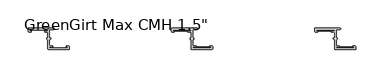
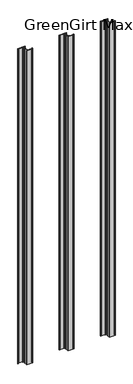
"""IFC4 building model written with IfcOpenShell, lengths in millimetres: fastener geometry."""

from ifc_helpers import new_model, si_unit, frame, origin, origin_with_axes, place, context, project, spatial, polyline, circle_curve, outline, extrude, source, transform, mapped, element, save
from ifc_brep_helpers import plane_surface, cylinder_surface, revolved_surface, advanced_brep


def fastener_bb8683ab(model_context):
    return source(origin(), model_context, "Body", "SolidModel", [
        advanced_brep(
        [(2340.102, -3.556, 2032.0), (2371.09, -3.556, 2032.0), (2371.09, -5.2832, 2032.0), (2366.899, -5.2832, 2032.0), (2366.899, -7.3152, 2032.0), (2371.09, -7.3152, 2032.0), (2371.852, -8.0772, 2032.0), (2371.852, -17.7601563, 2032.0), (2371.0035567, -17.7601563, 2032.0), (2371.0035567, -20.4288947, 2032.0), (2371.852, -20.4288947, 2032.0), (2371.852, -37.3379766, 2032.0), (2372.614, -38.0999766, 2032.0), (2408.8513242, -38.1, 2032.0), (2409.571, -37.3379766, 2032.0), (2409.571, -33.7057766, 2032.0), (2407.539, -31.6737766, 2032.0), (2405.253, -31.6737766, 2032.0), (2405.253, -33.7057766, 2032.0), (2406.269, -33.7057766, 2032.0), (2406.269, -35.4329766, 2032.0), (2375.281, -35.4329766, 2032.0), (2375.281, -33.7057766, 2032.0), (2379.472, -33.7057766, 2032.0), (2379.472, -31.6737766, 2032.0), (2375.281, -31.6737766, 2032.0), (2374.519, -30.9117766, 2032.0), (2374.519, -20.4279799, 2032.0), (2375.3679007, -20.4279799, 2032.0), (2375.3679007, -17.7601563, 2032.0), (2374.519, -17.7601563, 2032.0), (2374.519, -3.429, 2032.0), (2375.281, -2.667, 2032.0), (2381.377, -2.667, 2032.0), (2381.377, 0.0, 2032.0), (2337.562, 0.0, 2032.0), (2336.8, -0.762, 2032.0), (2336.8, -5.2832, 2032.0), (2338.832, -7.3152, 2032.0), (2341.118, -7.3152, 2032.0), (2341.118, -5.2832, 2032.0), (2340.102, -5.2832, 2032.0), (2340.102, -3.556, 0.0), (2340.102, -5.2832, 0.0), (2341.118, -5.2832, 0.0), (2341.118, -7.3152, 0.0), (2338.832, -7.3152, 0.0), (2336.8, -5.2832, 0.0), (2336.8, -0.762, 0.0), (2337.562, 0.0, 0.0), (2381.377, 0.0, 0.0), (2381.377, -2.667, 0.0), (2375.281, -2.667, 0.0), (2374.519, -3.429, 0.0), (2374.519, -17.7601563, 0.0), (2375.3679007, -17.7601563, 0.0), (2375.3679007, -20.4279799, 0.0), (2374.519, -20.4279799, 0.0), (2374.519, -30.9117766, 0.0), (2375.281, -31.6737766, 0.0), (2379.472, -31.6737766, 0.0), (2379.472, -33.7057766, 0.0), (2375.281, -33.7057766, 0.0), (2375.281, -35.4329766, 0.0), (2406.269, -35.4329766, 0.0), (2406.269, -33.7057766, 0.0), (2405.253, -33.7057766, 0.0), (2405.253, -31.6737766, 0.0), (2407.539, -31.6737766, 0.0), (2409.571, -33.7057766, 0.0), (2409.571, -37.3379766, 0.0), (2408.809, -38.0999766, 0.0), (2372.7467826, -38.1, 0.0), (2371.852, -37.3379766, 0.0), (2371.852, -20.4288947, 0.0), (2371.0035567, -20.4288947, 0.0), (2371.0035567, -17.7601563, 0.0), (2371.852, -17.7601563, 0.0), (2371.852, -8.0772, 0.0), (2371.09, -7.3152, 0.0), (2366.899, -7.3152, 0.0), (2366.899, -5.2832, 0.0), (2371.09, -5.2832, 0.0), (2371.09, -3.556, 0.0)],
        [
            (0, 1),
            (1, 2, circle_curve(frame((2371.09, -4.4196, 2032.0), z_axis=(0.0, 0.0, -1.0), x_axis=(1.0, 0.0, 0.0)), 0.8636)),
            (2, 3),
            (3, 4, circle_curve(frame((2366.899, -6.2992, 2032.0), z_axis=(0.0, 0.0, 1.0), x_axis=(1.0, 0.0, 0.0)), 1.016)),
            (4, 5),
            (5, 6, circle_curve(frame((2371.09, -8.0772, 2032.0), z_axis=(0.0, 0.0, -1.0), x_axis=(1.0, 0.0, 0.0)), 0.762)),
            (6, 7),
            (7, 8),
            (8, 9, circle_curve(frame((2371.0035567, -19.0945255, 2032.0), z_axis=(0.0, 0.0, 1.0), x_axis=(1.0, 0.0, 0.0)), 1.3343692)),
            (9, 10),
            (10, 11),
            (11, 12, circle_curve(frame((2372.614, -37.3379766, 2032.0), z_axis=(0.0, 0.0, 1.0), x_axis=(1.0, 0.0, 0.0)), 0.762)),
            (12, 13),
            (13, 14, circle_curve(frame((2408.809, -37.3379766, 2032.0), z_axis=(0.0, 0.0, 1.0), x_axis=(1.0, 0.0, 0.0)), 0.762)),
            (14, 15),
            (15, 16, circle_curve(frame((2407.539, -33.7057766, 2032.0), z_axis=(0.0, 0.0, 1.0), x_axis=(1.0, 0.0, 0.0)), 2.032)),
            (16, 17),
            (17, 18, circle_curve(frame((2405.253, -32.6897766, 2032.0), z_axis=(0.0, 0.0, 1.0), x_axis=(1.0, 0.0, 0.0)), 1.016)),
            (18, 19),
            (19, 20, circle_curve(frame((2406.269, -34.5693766, 2032.0), z_axis=(0.0, 0.0, -1.0), x_axis=(1.0, 0.0, 0.0)), 0.8636)),
            (20, 21),
            (21, 22, circle_curve(frame((2375.281, -34.5693766, 2032.0), z_axis=(0.0, 0.0, -1.0), x_axis=(1.0, 0.0, 0.0)), 0.8636)),
            (22, 23),
            (23, 24, circle_curve(frame((2379.472, -32.6897766, 2032.0), z_axis=(0.0, 0.0, 1.0), x_axis=(1.0, 0.0, 0.0)), 1.016)),
            (24, 25),
            (25, 26, circle_curve(frame((2375.281, -30.9117766, 2032.0), z_axis=(0.0, 0.0, -1.0), x_axis=(1.0, 0.0, 0.0)), 0.762)),
            (26, 27),
            (27, 28),
            (28, 29, circle_curve(frame((2375.3679007, -19.0940681, 2032.0), z_axis=(0.0, 0.0, 1.0), x_axis=(1.0, 0.0, 0.0)), 1.3339118)),
            (29, 30),
            (30, 31),
            (31, 32, circle_curve(frame((2375.281, -3.429, 2032.0), z_axis=(0.0, 0.0, -1.0), x_axis=(1.0, 0.0, 0.0)), 0.762)),
            (32, 33),
            (33, 34, circle_curve(frame((2381.377, -1.3335, 2032.0), z_axis=(0.0, 0.0, 1.0), x_axis=(1.0, 0.0, 0.0)), 1.3335)),
            (34, 35),
            (35, 36, circle_curve(frame((2337.562, -0.762, 2032.0), z_axis=(0.0, 0.0, 1.0), x_axis=(1.0, 0.0, 0.0)), 0.762)),
            (36, 37),
            (37, 38, circle_curve(frame((2338.832, -5.2832, 2032.0), z_axis=(0.0, 0.0, 1.0), x_axis=(1.0, 0.0, 0.0)), 2.032)),
            (38, 39),
            (39, 40, circle_curve(frame((2341.118, -6.2992, 2032.0), z_axis=(0.0, 0.0, 1.0), x_axis=(1.0, 0.0, 0.0)), 1.016)),
            (40, 41),
            (41, 0, circle_curve(frame((2340.102, -4.4196, 2032.0), z_axis=(0.0, 0.0, -1.0), x_axis=(1.0, 0.0, 0.0)), 0.8636)),
            (42, 43, circle_curve(frame((2340.102, -4.4196, 0.0), z_axis=(0.0, 0.0, 1.0), x_axis=(1.0, 0.0, 0.0)), 0.8636)),
            (43, 44),
            (44, 45, circle_curve(frame((2341.118, -6.2992, 0.0), z_axis=(0.0, 0.0, -1.0), x_axis=(1.0, 0.0, 0.0)), 1.016)),
            (45, 46),
            (46, 47, circle_curve(frame((2338.832, -5.2832, 0.0), z_axis=(0.0, 0.0, -1.0), x_axis=(1.0, 0.0, 0.0)), 2.032)),
            (47, 48),
            (48, 49, circle_curve(frame((2337.562, -0.762, 0.0), z_axis=(0.0, 0.0, -1.0), x_axis=(1.0, 0.0, 0.0)), 0.762)),
            (49, 50),
            (50, 51, circle_curve(frame((2381.377, -1.3335, 0.0), z_axis=(0.0, 0.0, -1.0), x_axis=(1.0, 0.0, 0.0)), 1.3335)),
            (51, 52),
            (52, 53, circle_curve(frame((2375.281, -3.429, 0.0), z_axis=(0.0, 0.0, 1.0), x_axis=(1.0, 0.0, 0.0)), 0.762)),
            (53, 54),
            (54, 55),
            (55, 56, circle_curve(frame((2375.3679007, -19.0940681, 0.0), z_axis=(0.0, 0.0, -1.0), x_axis=(1.0, 0.0, 0.0)), 1.3339118)),
            (56, 57),
            (57, 58),
            (58, 59, circle_curve(frame((2375.281, -30.9117766, 0.0), z_axis=(0.0, 0.0, 1.0), x_axis=(1.0, 0.0, 0.0)), 0.762)),
            (59, 60),
            (60, 61, circle_curve(frame((2379.472, -32.6897766, 0.0), z_axis=(0.0, 0.0, -1.0), x_axis=(1.0, 0.0, 0.0)), 1.016)),
            (61, 62),
            (62, 63, circle_curve(frame((2375.281, -34.5693766, 0.0), z_axis=(0.0, 0.0, 1.0), x_axis=(1.0, 0.0, 0.0)), 0.8636)),
            (63, 64),
            (64, 65, circle_curve(frame((2406.269, -34.5693766, 0.0), z_axis=(0.0, 0.0, 1.0), x_axis=(1.0, 0.0, 0.0)), 0.8636)),
            (65, 66),
            (66, 67, circle_curve(frame((2405.253, -32.6897766, 0.0), z_axis=(0.0, 0.0, -1.0), x_axis=(1.0, 0.0, 0.0)), 1.016)),
            (67, 68),
            (68, 69, circle_curve(frame((2407.539, -33.7057766, 0.0), z_axis=(0.0, 0.0, -1.0), x_axis=(1.0, 0.0, 0.0)), 2.032)),
            (69, 70),
            (70, 71, circle_curve(frame((2408.809, -37.3379766, 0.0), z_axis=(0.0, 0.0, -1.0), x_axis=(1.0, 0.0, 0.0)), 0.762)),
            (71, 72),
            (72, 73, circle_curve(frame((2372.614, -37.3379766, 0.0), z_axis=(0.0, 0.0, -1.0), x_axis=(1.0, 0.0, 0.0)), 0.762)),
            (73, 74),
            (74, 75),
            (75, 76, circle_curve(frame((2371.0035567, -19.0945255, 0.0), z_axis=(0.0, 0.0, -1.0), x_axis=(1.0, 0.0, 0.0)), 1.3343692)),
            (76, 77),
            (77, 78),
            (78, 79, circle_curve(frame((2371.09, -8.0772, 0.0), z_axis=(0.0, 0.0, 1.0), x_axis=(1.0, 0.0, 0.0)), 0.762)),
            (79, 80),
            (80, 81, circle_curve(frame((2366.899, -6.2992, 0.0), z_axis=(0.0, 0.0, -1.0), x_axis=(1.0, 0.0, 0.0)), 1.016)),
            (81, 82),
            (82, 83, circle_curve(frame((2371.09, -4.4196, 0.0), z_axis=(0.0, 0.0, 1.0), x_axis=(1.0, 0.0, 0.0)), 0.8636)),
            (83, 42),
            (0, 42),
            (83, 1),
            (82, 2),
            (81, 3),
            (80, 4),
            (79, 5),
            (78, 6),
            (77, 7),
            (76, 8),
            (75, 9),
            (74, 10),
            (73, 11),
            (72, 12),
            (71, 13),
            (70, 14),
            (69, 15),
            (68, 16),
            (67, 17),
            (66, 18),
            (65, 19),
            (64, 20),
            (63, 21),
            (62, 22),
            (61, 23),
            (60, 24),
            (59, 25),
            (58, 26),
            (57, 27),
            (56, 28),
            (55, 29),
            (54, 30),
            (53, 31),
            (52, 32),
            (51, 33),
            (50, 34),
            (49, 35),
            (48, 36),
            (47, 37),
            (46, 38),
            (45, 39),
            (44, 40),
            (43, 41),
        ],
        [
            plane_surface(frame((2371.09, -3.556, 2032.0), z_axis=(0.0, 0.0, 1.0), x_axis=(1.0, 0.0, 0.0))),
            plane_surface(frame((2371.09, -3.556, 0.0), z_axis=(0.0, 0.0, -1.0), x_axis=(-1.0, 0.0, 0.0))),
            plane_surface(frame((2340.102, -3.556, 2032.0), z_axis=(0.0, -1.0, 0.0), x_axis=(0.0, 0.0, -1.0))),
            revolved_surface(polyline([(2371.9536000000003, -4.4196, 0.0), (2371.9536000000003, -4.4196, 2032.0)]), (2371.09, -4.4196, 0.0), (0.0, 0.0, -1.0)),
            plane_surface(frame((2371.09, -5.2832, 2032.0), z_axis=(0.0, 1.0, 0.0), x_axis=(0.0, 0.0, -1.0))),
            cylinder_surface(frame((2366.899, -6.2992, 0.0), z_axis=(0.0, 0.0, 1.0), x_axis=(1.0, 0.0, 0.0)), 1.016),
            plane_surface(frame((2366.899, -7.3152, 2032.0), z_axis=(0.0, -1.0, 0.0), x_axis=(0.0, 0.0, -1.0))),
            revolved_surface(polyline([(2371.8520000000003, -8.0772, 0.0), (2371.8520000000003, -8.0772, 2032.0)]), (2371.09, -8.0772, 0.0), (0.0, 0.0, -1.0)),
            plane_surface(frame((2371.852, -8.0772, 2032.0), z_axis=(-1.0, 0.0, 0.0), x_axis=(0.0, 0.0, -1.0))),
            plane_surface(frame((2371.852, -17.7601563, 2032.0), z_axis=(0.0, 1.0, 0.0), x_axis=(0.0, 0.0, -1.0))),
            cylinder_surface(frame((2371.0035567, -19.0945255, 0.0), z_axis=(0.0, 0.0, 1.0), x_axis=(1.0, 0.0, 0.0)), 1.3343692),
            plane_surface(frame((2371.0035567, -20.4288947, 2032.0), z_axis=(0.0, -1.0, 0.0), x_axis=(0.0, 0.0, -1.0))),
            plane_surface(frame((2371.852, -20.4288947, 2032.0), z_axis=(-1.0, 0.0, 0.0), x_axis=(0.0, 0.0, -1.0))),
            cylinder_surface(frame((2372.614, -37.3379766, 0.0), z_axis=(0.0, 0.0, 1.0), x_axis=(1.0, 0.0, 0.0)), 0.762),
            plane_surface(frame((2372.7467826, -38.1, 2032.0), z_axis=(0.0, -1.0, 0.0), x_axis=(0.0, 0.0, -1.0))),
            cylinder_surface(frame((2408.809, -37.3379766, 0.0), z_axis=(0.0, 0.0, 1.0), x_axis=(1.0, 0.0, 0.0)), 0.762),
            plane_surface(frame((2409.571, -37.3379766, 2032.0), z_axis=(1.0, 1.094695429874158e-12, 0.0), x_axis=(0.0, 0.0, -1.0))),
            cylinder_surface(frame((2407.539, -33.7057766, 0.0), z_axis=(0.0, 0.0, 1.0), x_axis=(1.0, 0.0, 0.0)), 2.032),
            plane_surface(frame((2407.539, -31.6737766, 2032.0), z_axis=(0.0, 1.0, 0.0), x_axis=(0.0, 0.0, -1.0))),
            cylinder_surface(frame((2405.253, -32.6897766, 0.0), z_axis=(0.0, 0.0, 1.0), x_axis=(1.0, 0.0, 0.0)), 1.016),
            plane_surface(frame((2405.253, -33.7057766, 2032.0), z_axis=(0.0, -1.0, 0.0), x_axis=(0.0, 0.0, -1.0))),
            revolved_surface(polyline([(2407.1326, -34.5693766, 0.0), (2407.1326, -34.5693766, 2032.0)]), (2406.269, -34.5693766, 0.0), (0.0, 0.0, -1.0)),
            plane_surface(frame((2406.269, -35.4329766, 2032.0), z_axis=(0.0, 1.0, 0.0), x_axis=(0.0, 0.0, -1.0))),
            revolved_surface(polyline([(2376.1446, -34.5693766, 0.0), (2376.1446, -34.5693766, 2032.0)]), (2375.281, -34.5693766, 0.0), (0.0, 0.0, -1.0)),
            plane_surface(frame((2375.281, -33.7057766, 2032.0), z_axis=(0.0, -1.0, 0.0), x_axis=(0.0, 0.0, -1.0))),
            cylinder_surface(frame((2379.472, -32.6897766, 0.0), z_axis=(0.0, 0.0, 1.0), x_axis=(1.0, 0.0, 0.0)), 1.016),
            plane_surface(frame((2379.472, -31.6737766, 2032.0), z_axis=(0.0, 1.0, 0.0), x_axis=(0.0, 0.0, -1.0))),
            revolved_surface(polyline([(2376.043, -30.9117766, 0.0), (2376.043, -30.9117766, 2032.0)]), (2375.281, -30.9117766, 0.0), (0.0, 0.0, -1.0)),
            plane_surface(frame((2374.519, -30.9117766, 2032.0), z_axis=(1.0, 0.0, 0.0), x_axis=(0.0, 0.0, -1.0))),
            plane_surface(frame((2374.519, -20.4279799, 2032.0), z_axis=(0.0, -1.0, 0.0), x_axis=(0.0, 0.0, -1.0))),
            cylinder_surface(frame((2375.3679007, -19.0940681, 0.0), z_axis=(0.0, 0.0, 1.0), x_axis=(1.0, 0.0, 0.0)), 1.3339118),
            plane_surface(frame((2375.3679007, -17.7601563, 2032.0), z_axis=(0.0, 1.0, 0.0), x_axis=(0.0, 0.0, -1.0))),
            plane_surface(frame((2374.519, -17.7601563, 2032.0), z_axis=(1.0, 0.0, 0.0), x_axis=(0.0, 0.0, -1.0))),
            revolved_surface(polyline([(2376.043, -3.429, 0.0), (2376.043, -3.429, 2032.0)]), (2375.281, -3.429, 0.0), (0.0, 0.0, -1.0)),
            plane_surface(frame((2375.281, -2.667, 2032.0), z_axis=(0.0, -1.0, 0.0), x_axis=(0.0, 0.0, -1.0))),
            cylinder_surface(frame((2381.377, -1.3335, 0.0), z_axis=(0.0, 0.0, 1.0), x_axis=(1.0, 0.0, 0.0)), 1.3335),
            plane_surface(frame((2381.377, 0.0, 2032.0), z_axis=(0.0, 1.0, 0.0), x_axis=(0.0, 0.0, -1.0))),
            cylinder_surface(frame((2337.562, -0.762, 0.0), z_axis=(0.0, 0.0, 1.0), x_axis=(1.0, 0.0, 0.0)), 0.762),
            plane_surface(frame((2336.8, -0.762, 2032.0), z_axis=(-1.0, 1.1909948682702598e-12, 0.0), x_axis=(0.0, 0.0, -1.0))),
            cylinder_surface(frame((2338.832, -5.2832, 0.0), z_axis=(0.0, 0.0, 1.0), x_axis=(1.0, 0.0, 0.0)), 2.032),
            plane_surface(frame((2338.832, -7.3152, 2032.0), z_axis=(0.0, -1.0, 0.0), x_axis=(0.0, 0.0, -1.0))),
            cylinder_surface(frame((2341.118, -6.2992, 0.0), z_axis=(0.0, 0.0, 1.0), x_axis=(1.0, 0.0, 0.0)), 1.016),
            plane_surface(frame((2341.118, -5.2832, 2032.0), z_axis=(0.0, 1.0, 0.0), x_axis=(0.0, 0.0, -1.0))),
            revolved_surface(polyline([(2340.9656, -4.4196, 0.0), (2340.9656, -4.4196, 2032.0)]), (2340.102, -4.4196, 0.0), (0.0, 0.0, -1.0)),
        ],
        [
            (0, [[1, 2, 3, 4, 5, 6, 7, 8, 9, 10, 11, 12, 13, 14, 15, 16, 17, 18, 19, 20, 21, 22, 23, 24, 25, 26, 27, 28, 29, 30, 31, 32, 33, 34, 35, 36, 37, 38, 39, 40, 41, 42]]),
            (1, [[43, 44, 45, 46, 47, 48, 49, 50, 51, 52, 53, 54, 55, 56, 57, 58, 59, 60, 61, 62, 63, 64, 65, 66, 67, 68, 69, 70, 71, 72, 73, 74, 75, 76, 77, 78, 79, 80, 81, 82, 83, 84]]),
            (2, [[-1, 85, -84, 86]]),
            (3, [[-2, -86, -83, 87]]),
            (4, [[-3, -87, -82, 88]]),
            (5, [[-4, -88, -81, 89]]),
            (6, [[-5, -89, -80, 90]]),
            (7, [[-6, -90, -79, 91]]),
            (8, [[-7, -91, -78, 92]]),
            (9, [[-8, -92, -77, 93]]),
            (10, [[-9, -93, -76, 94]]),
            (11, [[-10, -94, -75, 95]]),
            (12, [[-11, -95, -74, 96]]),
            (13, [[-12, -96, -73, 97]]),
            (14, [[-13, -97, -72, 98]]),
            (15, [[-14, -98, -71, 99]]),
            (16, [[-15, -99, -70, 100]]),
            (17, [[-16, -100, -69, 101]]),
            (18, [[-17, -101, -68, 102]]),
            (19, [[-18, -102, -67, 103]]),
            (20, [[-19, -103, -66, 104]]),
            (21, [[-20, -104, -65, 105]]),
            (22, [[-21, -105, -64, 106]]),
            (23, [[-22, -106, -63, 107]]),
            (24, [[-23, -107, -62, 108]]),
            (25, [[-24, -108, -61, 109]]),
            (26, [[-25, -109, -60, 110]]),
            (27, [[-26, -110, -59, 111]]),
            (28, [[-27, -111, -58, 112]]),
            (29, [[-28, -112, -57, 113]]),
            (30, [[-29, -113, -56, 114]]),
            (31, [[-30, -114, -55, 115]]),
            (32, [[-31, -115, -54, 116]]),
            (33, [[-32, -116, -53, 117]]),
            (34, [[-33, -117, -52, 118]]),
            (35, [[-34, -118, -51, 119]]),
            (36, [[-35, -119, -50, 120]]),
            (37, [[-36, -120, -49, 121]]),
            (38, [[-37, -121, -48, 122]]),
            (39, [[-38, -122, -47, 123]]),
            (40, [[-39, -123, -46, 124]]),
            (41, [[-40, -124, -45, 125]]),
            (42, [[-41, -125, -44, 126]]),
            (43, [[-42, -126, -43, -85]]),
        ],
    ),
        extrude(outline(polyline([(2371.09, -3.556), (2371.09, -5.2832), (2340.102, -5.2832), (2340.102, -3.556), (2371.09, -3.556)])), origin_with_axes(), (0.0, 0.0, 1.0), 2032.0),
        extrude(outline(polyline([(2406.269, -33.7057766), (2406.269, -35.4329766), (2375.281, -35.4329766), (2375.281, -33.7057766), (2406.269, -33.7057766)])), origin_with_axes(), (0.0, 0.0, 1.0), 2032.0),
        advanced_brep(
        [(2086.102, -3.556, 2032.0), (2117.09, -3.556, 2032.0), (2117.09, -5.2832, 2032.0), (2112.899, -5.2832, 2032.0), (2112.899, -7.3152, 2032.0), (2117.09, -7.3152, 2032.0), (2117.852, -8.0772, 2032.0), (2117.852, -17.7601563, 2032.0), (2117.0035567, -17.7601563, 2032.0), (2117.0035567, -20.4288947, 2032.0), (2117.852, -20.4288947, 2032.0), (2117.852, -37.3379766, 2032.0), (2118.614, -38.0999766, 2032.0), (2154.8513242, -38.1, 2032.0), (2155.571, -37.3379766, 2032.0), (2155.571, -33.7057766, 2032.0), (2153.539, -31.6737766, 2032.0), (2151.253, -31.6737766, 2032.0), (2151.253, -33.7057766, 2032.0), (2152.269, -33.7057766, 2032.0), (2152.269, -35.4329766, 2032.0), (2121.281, -35.4329766, 2032.0), (2121.281, -33.7057766, 2032.0), (2125.472, -33.7057766, 2032.0), (2125.472, -31.6737766, 2032.0), (2121.281, -31.6737766, 2032.0), (2120.519, -30.9117766, 2032.0), (2120.519, -20.4279799, 2032.0), (2121.3679007, -20.4279799, 2032.0), (2121.3679007, -17.7601563, 2032.0), (2120.519, -17.7601563, 2032.0), (2120.519, -3.429, 2032.0), (2121.281, -2.667, 2032.0), (2127.377, -2.667, 2032.0), (2127.377, 0.0, 2032.0), (2083.562, 0.0, 2032.0), (2082.8, -0.762, 2032.0), (2082.8, -5.2832, 2032.0), (2084.832, -7.3152, 2032.0), (2087.118, -7.3152, 2032.0), (2087.118, -5.2832, 2032.0), (2086.102, -5.2832, 2032.0), (2086.102, -3.556, 0.0), (2086.102, -5.2832, 0.0), (2087.118, -5.2832, 0.0), (2087.118, -7.3152, 0.0), (2084.832, -7.3152, 0.0), (2082.8, -5.2832, 0.0), (2082.8, -0.762, 0.0), (2083.562, 0.0, 0.0), (2127.377, 0.0, 0.0), (2127.377, -2.667, 0.0), (2121.281, -2.667, 0.0), (2120.519, -3.429, 0.0), (2120.519, -17.7601563, 0.0), (2121.3679007, -17.7601563, 0.0), (2121.3679007, -20.4279799, 0.0), (2120.519, -20.4279799, 0.0), (2120.519, -30.9117766, 0.0), (2121.281, -31.6737766, 0.0), (2125.472, -31.6737766, 0.0), (2125.472, -33.7057766, 0.0), (2121.281, -33.7057766, 0.0), (2121.281, -35.4329766, 0.0), (2152.269, -35.4329766, 0.0), (2152.269, -33.7057766, 0.0), (2151.253, -33.7057766, 0.0), (2151.253, -31.6737766, 0.0), (2153.539, -31.6737766, 0.0), (2155.571, -33.7057766, 0.0), (2155.571, -37.3379766, 0.0), (2154.809, -38.0999766, 0.0), (2118.7467826, -38.1, 0.0), (2117.852, -37.3379766, 0.0), (2117.852, -20.4288947, 0.0), (2117.0035567, -20.4288947, 0.0), (2117.0035567, -17.7601563, 0.0), (2117.852, -17.7601563, 0.0), (2117.852, -8.0772, 0.0), (2117.09, -7.3152, 0.0), (2112.899, -7.3152, 0.0), (2112.899, -5.2832, 0.0), (2117.09, -5.2832, 0.0), (2117.09, -3.556, 0.0)],
        [
            (0, 1),
            (1, 2, circle_curve(frame((2117.09, -4.4196, 2032.0), z_axis=(0.0, 0.0, -1.0), x_axis=(1.0, 0.0, 0.0)), 0.8636)),
            (2, 3),
            (3, 4, circle_curve(frame((2112.899, -6.2992, 2032.0), z_axis=(0.0, 0.0, 1.0), x_axis=(1.0, 0.0, 0.0)), 1.016)),
            (4, 5),
            (5, 6, circle_curve(frame((2117.09, -8.0772, 2032.0), z_axis=(0.0, 0.0, -1.0), x_axis=(1.0, 0.0, 0.0)), 0.762)),
            (6, 7),
            (7, 8),
            (8, 9, circle_curve(frame((2117.0035567, -19.0945255, 2032.0), z_axis=(0.0, 0.0, 1.0), x_axis=(1.0, 0.0, 0.0)), 1.3343692)),
            (9, 10),
            (10, 11),
            (11, 12, circle_curve(frame((2118.614, -37.3379766, 2032.0), z_axis=(0.0, 0.0, 1.0), x_axis=(1.0, 0.0, 0.0)), 0.762)),
            (12, 13),
            (13, 14, circle_curve(frame((2154.809, -37.3379766, 2032.0), z_axis=(0.0, 0.0, 1.0), x_axis=(1.0, 0.0, 0.0)), 0.762)),
            (14, 15),
            (15, 16, circle_curve(frame((2153.539, -33.7057766, 2032.0), z_axis=(0.0, 0.0, 1.0), x_axis=(1.0, 0.0, 0.0)), 2.032)),
            (16, 17),
            (17, 18, circle_curve(frame((2151.253, -32.6897766, 2032.0), z_axis=(0.0, 0.0, 1.0), x_axis=(1.0, 0.0, 0.0)), 1.016)),
            (18, 19),
            (19, 20, circle_curve(frame((2152.269, -34.5693766, 2032.0), z_axis=(0.0, 0.0, -1.0), x_axis=(1.0, 0.0, 0.0)), 0.8636)),
            (20, 21),
            (21, 22, circle_curve(frame((2121.281, -34.5693766, 2032.0), z_axis=(0.0, 0.0, -1.0), x_axis=(1.0, 0.0, 0.0)), 0.8636)),
            (22, 23),
            (23, 24, circle_curve(frame((2125.472, -32.6897766, 2032.0), z_axis=(0.0, 0.0, 1.0), x_axis=(1.0, 0.0, 0.0)), 1.016)),
            (24, 25),
            (25, 26, circle_curve(frame((2121.281, -30.9117766, 2032.0), z_axis=(0.0, 0.0, -1.0), x_axis=(1.0, 0.0, 0.0)), 0.762)),
            (26, 27),
            (27, 28),
            (28, 29, circle_curve(frame((2121.3679007, -19.0940681, 2032.0), z_axis=(0.0, 0.0, 1.0), x_axis=(1.0, 0.0, 0.0)), 1.3339118)),
            (29, 30),
            (30, 31),
            (31, 32, circle_curve(frame((2121.281, -3.429, 2032.0), z_axis=(0.0, 0.0, -1.0), x_axis=(1.0, 0.0, 0.0)), 0.762)),
            (32, 33),
            (33, 34, circle_curve(frame((2127.377, -1.3335, 2032.0), z_axis=(0.0, 0.0, 1.0), x_axis=(1.0, 0.0, 0.0)), 1.3335)),
            (34, 35),
            (35, 36, circle_curve(frame((2083.562, -0.762, 2032.0), z_axis=(0.0, 0.0, 1.0), x_axis=(1.0, 0.0, 0.0)), 0.762)),
            (36, 37),
            (37, 38, circle_curve(frame((2084.832, -5.2832, 2032.0), z_axis=(0.0, 0.0, 1.0), x_axis=(1.0, 0.0, 0.0)), 2.032)),
            (38, 39),
            (39, 40, circle_curve(frame((2087.118, -6.2992, 2032.0), z_axis=(0.0, 0.0, 1.0), x_axis=(1.0, 0.0, 0.0)), 1.016)),
            (40, 41),
            (41, 0, circle_curve(frame((2086.102, -4.4196, 2032.0), z_axis=(0.0, 0.0, -1.0), x_axis=(1.0, 0.0, 0.0)), 0.8636)),
            (42, 43, circle_curve(frame((2086.102, -4.4196, 0.0), z_axis=(0.0, 0.0, 1.0), x_axis=(1.0, 0.0, 0.0)), 0.8636)),
            (43, 44),
            (44, 45, circle_curve(frame((2087.118, -6.2992, 0.0), z_axis=(0.0, 0.0, -1.0), x_axis=(1.0, 0.0, 0.0)), 1.016)),
            (45, 46),
            (46, 47, circle_curve(frame((2084.832, -5.2832, 0.0), z_axis=(0.0, 0.0, -1.0), x_axis=(1.0, 0.0, 0.0)), 2.032)),
            (47, 48),
            (48, 49, circle_curve(frame((2083.562, -0.762, 0.0), z_axis=(0.0, 0.0, -1.0), x_axis=(1.0, 0.0, 0.0)), 0.762)),
            (49, 50),
            (50, 51, circle_curve(frame((2127.377, -1.3335, 0.0), z_axis=(0.0, 0.0, -1.0), x_axis=(1.0, 0.0, 0.0)), 1.3335)),
            (51, 52),
            (52, 53, circle_curve(frame((2121.281, -3.429, 0.0), z_axis=(0.0, 0.0, 1.0), x_axis=(1.0, 0.0, 0.0)), 0.762)),
            (53, 54),
            (54, 55),
            (55, 56, circle_curve(frame((2121.3679007, -19.0940681, 0.0), z_axis=(0.0, 0.0, -1.0), x_axis=(1.0, 0.0, 0.0)), 1.3339118)),
            (56, 57),
            (57, 58),
            (58, 59, circle_curve(frame((2121.281, -30.9117766, 0.0), z_axis=(0.0, 0.0, 1.0), x_axis=(1.0, 0.0, 0.0)), 0.762)),
            (59, 60),
            (60, 61, circle_curve(frame((2125.472, -32.6897766, 0.0), z_axis=(0.0, 0.0, -1.0), x_axis=(1.0, 0.0, 0.0)), 1.016)),
            (61, 62),
            (62, 63, circle_curve(frame((2121.281, -34.5693766, 0.0), z_axis=(0.0, 0.0, 1.0), x_axis=(1.0, 0.0, 0.0)), 0.8636)),
            (63, 64),
            (64, 65, circle_curve(frame((2152.269, -34.5693766, 0.0), z_axis=(0.0, 0.0, 1.0), x_axis=(1.0, 0.0, 0.0)), 0.8636)),
            (65, 66),
            (66, 67, circle_curve(frame((2151.253, -32.6897766, 0.0), z_axis=(0.0, 0.0, -1.0), x_axis=(1.0, 0.0, 0.0)), 1.016)),
            (67, 68),
            (68, 69, circle_curve(frame((2153.539, -33.7057766, 0.0), z_axis=(0.0, 0.0, -1.0), x_axis=(1.0, 0.0, 0.0)), 2.032)),
            (69, 70),
            (70, 71, circle_curve(frame((2154.809, -37.3379766, 0.0), z_axis=(0.0, 0.0, -1.0), x_axis=(1.0, 0.0, 0.0)), 0.762)),
            (71, 72),
            (72, 73, circle_curve(frame((2118.614, -37.3379766, 0.0), z_axis=(0.0, 0.0, -1.0), x_axis=(1.0, 0.0, 0.0)), 0.762)),
            (73, 74),
            (74, 75),
            (75, 76, circle_curve(frame((2117.0035567, -19.0945255, 0.0), z_axis=(0.0, 0.0, -1.0), x_axis=(1.0, 0.0, 0.0)), 1.3343692)),
            (76, 77),
            (77, 78),
            (78, 79, circle_curve(frame((2117.09, -8.0772, 0.0), z_axis=(0.0, 0.0, 1.0), x_axis=(1.0, 0.0, 0.0)), 0.762)),
            (79, 80),
            (80, 81, circle_curve(frame((2112.899, -6.2992, 0.0), z_axis=(0.0, 0.0, -1.0), x_axis=(1.0, 0.0, 0.0)), 1.016)),
            (81, 82),
            (82, 83, circle_curve(frame((2117.09, -4.4196, 0.0), z_axis=(0.0, 0.0, 1.0), x_axis=(1.0, 0.0, 0.0)), 0.8636)),
            (83, 42),
            (0, 42),
            (83, 1),
            (82, 2),
            (81, 3),
            (80, 4),
            (79, 5),
            (78, 6),
            (77, 7),
            (76, 8),
            (75, 9),
            (74, 10),
            (73, 11),
            (72, 12),
            (71, 13),
            (70, 14),
            (69, 15),
            (68, 16),
            (67, 17),
            (66, 18),
            (65, 19),
            (64, 20),
            (63, 21),
            (62, 22),
            (61, 23),
            (60, 24),
            (59, 25),
            (58, 26),
            (57, 27),
            (56, 28),
            (55, 29),
            (54, 30),
            (53, 31),
            (52, 32),
            (51, 33),
            (50, 34),
            (49, 35),
            (48, 36),
            (47, 37),
            (46, 38),
            (45, 39),
            (44, 40),
            (43, 41),
        ],
        [
            plane_surface(frame((2117.09, -3.556, 2032.0), z_axis=(0.0, 0.0, 1.0), x_axis=(1.0, 0.0, 0.0))),
            plane_surface(frame((2117.09, -3.556, 0.0), z_axis=(0.0, 0.0, -1.0), x_axis=(-1.0, 0.0, 0.0))),
            plane_surface(frame((2086.102, -3.556, 2032.0), z_axis=(0.0, -1.0, 0.0), x_axis=(0.0, 0.0, -1.0))),
            revolved_surface(polyline([(2117.9536000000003, -4.4196, 0.0), (2117.9536000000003, -4.4196, 2032.0)]), (2117.09, -4.4196, 0.0), (0.0, 0.0, -1.0)),
            plane_surface(frame((2117.09, -5.2832, 2032.0), z_axis=(0.0, 1.0, 0.0), x_axis=(0.0, 0.0, -1.0))),
            cylinder_surface(frame((2112.899, -6.2992, 0.0), z_axis=(0.0, 0.0, 1.0), x_axis=(1.0, 0.0, 0.0)), 1.016),
            plane_surface(frame((2112.899, -7.3152, 2032.0), z_axis=(0.0, -1.0, 0.0), x_axis=(0.0, 0.0, -1.0))),
            revolved_surface(polyline([(2117.8520000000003, -8.0772, 0.0), (2117.8520000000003, -8.0772, 2032.0)]), (2117.09, -8.0772, 0.0), (0.0, 0.0, -1.0)),
            plane_surface(frame((2117.852, -8.0772, 2032.0), z_axis=(-1.0, 0.0, 0.0), x_axis=(0.0, 0.0, -1.0))),
            plane_surface(frame((2117.852, -17.7601563, 2032.0), z_axis=(0.0, 1.0, 0.0), x_axis=(0.0, 0.0, -1.0))),
            cylinder_surface(frame((2117.0035567, -19.0945255, 0.0), z_axis=(0.0, 0.0, 1.0), x_axis=(1.0, 0.0, 0.0)), 1.3343692),
            plane_surface(frame((2117.0035567, -20.4288947, 2032.0), z_axis=(0.0, -1.0, 0.0), x_axis=(0.0, 0.0, -1.0))),
            plane_surface(frame((2117.852, -20.4288947, 2032.0), z_axis=(-1.0, 0.0, 0.0), x_axis=(0.0, 0.0, -1.0))),
            cylinder_surface(frame((2118.614, -37.3379766, 0.0), z_axis=(0.0, 0.0, 1.0), x_axis=(1.0, 0.0, 0.0)), 0.762),
            plane_surface(frame((2118.7467826, -38.1, 2032.0), z_axis=(0.0, -1.0, 0.0), x_axis=(0.0, 0.0, -1.0))),
            cylinder_surface(frame((2154.809, -37.3379766, 0.0), z_axis=(0.0, 0.0, 1.0), x_axis=(1.0, 0.0, 0.0)), 0.762),
            plane_surface(frame((2155.571, -37.3379766, 2032.0), z_axis=(1.0, 1.094695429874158e-12, 0.0), x_axis=(0.0, 0.0, -1.0))),
            cylinder_surface(frame((2153.539, -33.7057766, 0.0), z_axis=(0.0, 0.0, 1.0), x_axis=(1.0, 0.0, 0.0)), 2.032),
            plane_surface(frame((2153.539, -31.6737766, 2032.0), z_axis=(0.0, 1.0, 0.0), x_axis=(0.0, 0.0, -1.0))),
            cylinder_surface(frame((2151.253, -32.6897766, 0.0), z_axis=(0.0, 0.0, 1.0), x_axis=(1.0, 0.0, 0.0)), 1.016),
            plane_surface(frame((2151.253, -33.7057766, 2032.0), z_axis=(0.0, -1.0, 0.0), x_axis=(0.0, 0.0, -1.0))),
            revolved_surface(polyline([(2153.1326, -34.5693766, 0.0), (2153.1326, -34.5693766, 2032.0)]), (2152.269, -34.5693766, 0.0), (0.0, 0.0, -1.0)),
            plane_surface(frame((2152.269, -35.4329766, 2032.0), z_axis=(0.0, 1.0, 0.0), x_axis=(0.0, 0.0, -1.0))),
            revolved_surface(polyline([(2122.1446, -34.5693766, 0.0), (2122.1446, -34.5693766, 2032.0)]), (2121.281, -34.5693766, 0.0), (0.0, 0.0, -1.0)),
            plane_surface(frame((2121.281, -33.7057766, 2032.0), z_axis=(0.0, -1.0, 0.0), x_axis=(0.0, 0.0, -1.0))),
            cylinder_surface(frame((2125.472, -32.6897766, 0.0), z_axis=(0.0, 0.0, 1.0), x_axis=(1.0, 0.0, 0.0)), 1.016),
            plane_surface(frame((2125.472, -31.6737766, 2032.0), z_axis=(0.0, 1.0, 0.0), x_axis=(0.0, 0.0, -1.0))),
            revolved_surface(polyline([(2122.043, -30.9117766, 0.0), (2122.043, -30.9117766, 2032.0)]), (2121.281, -30.9117766, 0.0), (0.0, 0.0, -1.0)),
            plane_surface(frame((2120.519, -30.9117766, 2032.0), z_axis=(1.0, 0.0, 0.0), x_axis=(0.0, 0.0, -1.0))),
            plane_surface(frame((2120.519, -20.4279799, 2032.0), z_axis=(0.0, -1.0, 0.0), x_axis=(0.0, 0.0, -1.0))),
            cylinder_surface(frame((2121.3679007, -19.0940681, 0.0), z_axis=(0.0, 0.0, 1.0), x_axis=(1.0, 0.0, 0.0)), 1.3339118),
            plane_surface(frame((2121.3679007, -17.7601563, 2032.0), z_axis=(0.0, 1.0, 0.0), x_axis=(0.0, 0.0, -1.0))),
            plane_surface(frame((2120.519, -17.7601563, 2032.0), z_axis=(1.0, 0.0, 0.0), x_axis=(0.0, 0.0, -1.0))),
            revolved_surface(polyline([(2122.043, -3.429, 0.0), (2122.043, -3.429, 2032.0)]), (2121.281, -3.429, 0.0), (0.0, 0.0, -1.0)),
            plane_surface(frame((2121.281, -2.667, 2032.0), z_axis=(0.0, -1.0, 0.0), x_axis=(0.0, 0.0, -1.0))),
            cylinder_surface(frame((2127.377, -1.3335, 0.0), z_axis=(0.0, 0.0, 1.0), x_axis=(1.0, 0.0, 0.0)), 1.3335),
            plane_surface(frame((2127.377, 0.0, 2032.0), z_axis=(0.0, 1.0, 0.0), x_axis=(0.0, 0.0, -1.0))),
            cylinder_surface(frame((2083.562, -0.762, 0.0), z_axis=(0.0, 0.0, 1.0), x_axis=(1.0, 0.0, 0.0)), 0.762),
            plane_surface(frame((2082.8, -0.762, 2032.0), z_axis=(-1.0, 1.1909948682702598e-12, 0.0), x_axis=(0.0, 0.0, -1.0))),
            cylinder_surface(frame((2084.832, -5.2832, 0.0), z_axis=(0.0, 0.0, 1.0), x_axis=(1.0, 0.0, 0.0)), 2.032),
            plane_surface(frame((2084.832, -7.3152, 2032.0), z_axis=(0.0, -1.0, 0.0), x_axis=(0.0, 0.0, -1.0))),
            cylinder_surface(frame((2087.118, -6.2992, 0.0), z_axis=(0.0, 0.0, 1.0), x_axis=(1.0, 0.0, 0.0)), 1.016),
            plane_surface(frame((2087.118, -5.2832, 2032.0), z_axis=(0.0, 1.0, 0.0), x_axis=(0.0, 0.0, -1.0))),
            revolved_surface(polyline([(2086.9656, -4.4196, 0.0), (2086.9656, -4.4196, 2032.0)]), (2086.102, -4.4196, 0.0), (0.0, 0.0, -1.0)),
        ],
        [
            (0, [[1, 2, 3, 4, 5, 6, 7, 8, 9, 10, 11, 12, 13, 14, 15, 16, 17, 18, 19, 20, 21, 22, 23, 24, 25, 26, 27, 28, 29, 30, 31, 32, 33, 34, 35, 36, 37, 38, 39, 40, 41, 42]]),
            (1, [[43, 44, 45, 46, 47, 48, 49, 50, 51, 52, 53, 54, 55, 56, 57, 58, 59, 60, 61, 62, 63, 64, 65, 66, 67, 68, 69, 70, 71, 72, 73, 74, 75, 76, 77, 78, 79, 80, 81, 82, 83, 84]]),
            (2, [[-1, 85, -84, 86]]),
            (3, [[-2, -86, -83, 87]]),
            (4, [[-3, -87, -82, 88]]),
            (5, [[-4, -88, -81, 89]]),
            (6, [[-5, -89, -80, 90]]),
            (7, [[-6, -90, -79, 91]]),
            (8, [[-7, -91, -78, 92]]),
            (9, [[-8, -92, -77, 93]]),
            (10, [[-9, -93, -76, 94]]),
            (11, [[-10, -94, -75, 95]]),
            (12, [[-11, -95, -74, 96]]),
            (13, [[-12, -96, -73, 97]]),
            (14, [[-13, -97, -72, 98]]),
            (15, [[-14, -98, -71, 99]]),
            (16, [[-15, -99, -70, 100]]),
            (17, [[-16, -100, -69, 101]]),
            (18, [[-17, -101, -68, 102]]),
            (19, [[-18, -102, -67, 103]]),
            (20, [[-19, -103, -66, 104]]),
            (21, [[-20, -104, -65, 105]]),
            (22, [[-21, -105, -64, 106]]),
            (23, [[-22, -106, -63, 107]]),
            (24, [[-23, -107, -62, 108]]),
            (25, [[-24, -108, -61, 109]]),
            (26, [[-25, -109, -60, 110]]),
            (27, [[-26, -110, -59, 111]]),
            (28, [[-27, -111, -58, 112]]),
            (29, [[-28, -112, -57, 113]]),
            (30, [[-29, -113, -56, 114]]),
            (31, [[-30, -114, -55, 115]]),
            (32, [[-31, -115, -54, 116]]),
            (33, [[-32, -116, -53, 117]]),
            (34, [[-33, -117, -52, 118]]),
            (35, [[-34, -118, -51, 119]]),
            (36, [[-35, -119, -50, 120]]),
            (37, [[-36, -120, -49, 121]]),
            (38, [[-37, -121, -48, 122]]),
            (39, [[-38, -122, -47, 123]]),
            (40, [[-39, -123, -46, 124]]),
            (41, [[-40, -124, -45, 125]]),
            (42, [[-41, -125, -44, 126]]),
            (43, [[-42, -126, -43, -85]]),
        ],
    ),
        extrude(outline(polyline([(2117.09, -3.556), (2117.09, -5.2832), (2086.102, -5.2832), (2086.102, -3.556), (2117.09, -3.556)])), origin_with_axes(), (0.0, 0.0, 1.0), 2032.0),
        extrude(outline(polyline([(2152.269, -33.7057766), (2152.269, -35.4329766), (2121.281, -35.4329766), (2121.281, -33.7057766), (2152.269, -33.7057766)])), origin_with_axes(), (0.0, 0.0, 1.0), 2032.0),
        advanced_brep(
        [(1832.102, -3.556, 2032.0), (1863.09, -3.556, 2032.0), (1863.09, -5.2832, 2032.0), (1858.899, -5.2832, 2032.0), (1858.899, -7.3152, 2032.0), (1863.09, -7.3152, 2032.0), (1863.852, -8.0772, 2032.0), (1863.852, -17.7601563, 2032.0), (1863.0035567, -17.7601563, 2032.0), (1863.0035567, -20.4288947, 2032.0), (1863.852, -20.4288947, 2032.0), (1863.852, -37.3379766, 2032.0), (1864.614, -38.0999766, 2032.0), (1900.8513242, -38.1, 2032.0), (1901.571, -37.3379766, 2032.0), (1901.571, -33.7057766, 2032.0), (1899.539, -31.6737766, 2032.0), (1897.253, -31.6737766, 2032.0), (1897.253, -33.7057766, 2032.0), (1898.269, -33.7057766, 2032.0), (1898.269, -35.4329766, 2032.0), (1867.281, -35.4329766, 2032.0), (1867.281, -33.7057766, 2032.0), (1871.472, -33.7057766, 2032.0), (1871.472, -31.6737766, 2032.0), (1867.281, -31.6737766, 2032.0), (1866.519, -30.9117766, 2032.0), (1866.519, -20.4279799, 2032.0), (1867.3679007, -20.4279799, 2032.0), (1867.3679007, -17.7601563, 2032.0), (1866.519, -17.7601563, 2032.0), (1866.519, -3.429, 2032.0), (1867.281, -2.667, 2032.0), (1873.377, -2.667, 2032.0), (1873.377, 0.0, 2032.0), (1829.562, 0.0, 2032.0), (1828.8, -0.762, 2032.0), (1828.8, -5.2832, 2032.0), (1830.832, -7.3152, 2032.0), (1833.118, -7.3152, 2032.0), (1833.118, -5.2832, 2032.0), (1832.102, -5.2832, 2032.0), (1832.102, -3.556, 0.0), (1832.102, -5.2832, 0.0), (1833.118, -5.2832, 0.0), (1833.118, -7.3152, 0.0), (1830.832, -7.3152, 0.0), (1828.8, -5.2832, 0.0), (1828.8, -0.762, 0.0), (1829.562, 0.0, 0.0), (1873.377, 0.0, 0.0), (1873.377, -2.667, 0.0), (1867.281, -2.667, 0.0), (1866.519, -3.429, 0.0), (1866.519, -17.7601563, 0.0), (1867.3679007, -17.7601563, 0.0), (1867.3679007, -20.4279799, 0.0), (1866.519, -20.4279799, 0.0), (1866.519, -30.9117766, 0.0), (1867.281, -31.6737766, 0.0), (1871.472, -31.6737766, 0.0), (1871.472, -33.7057766, 0.0), (1867.281, -33.7057766, 0.0), (1867.281, -35.4329766, 0.0), (1898.269, -35.4329766, 0.0), (1898.269, -33.7057766, 0.0), (1897.253, -33.7057766, 0.0), (1897.253, -31.6737766, 0.0), (1899.539, -31.6737766, 0.0), (1901.571, -33.7057766, 0.0), (1901.571, -37.3379766, 0.0), (1900.809, -38.0999766, 0.0), (1864.7467826, -38.1, 0.0), (1863.852, -37.3379766, 0.0), (1863.852, -20.4288947, 0.0), (1863.0035567, -20.4288947, 0.0), (1863.0035567, -17.7601563, 0.0), (1863.852, -17.7601563, 0.0), (1863.852, -8.0772, 0.0), (1863.09, -7.3152, 0.0), (1858.899, -7.3152, 0.0), (1858.899, -5.2832, 0.0), (1863.09, -5.2832, 0.0), (1863.09, -3.556, 0.0)],
        [
            (0, 1),
            (1, 2, circle_curve(frame((1863.09, -4.4196, 2032.0), z_axis=(0.0, 0.0, -1.0), x_axis=(1.0, 0.0, 0.0)), 0.8636)),
            (2, 3),
            (3, 4, circle_curve(frame((1858.899, -6.2992, 2032.0), z_axis=(0.0, 0.0, 1.0), x_axis=(1.0, 0.0, 0.0)), 1.016)),
            (4, 5),
            (5, 6, circle_curve(frame((1863.09, -8.0772, 2032.0), z_axis=(0.0, 0.0, -1.0), x_axis=(1.0, 0.0, 0.0)), 0.762)),
            (6, 7),
            (7, 8),
            (8, 9, circle_curve(frame((1863.0035567, -19.0945255, 2032.0), z_axis=(0.0, 0.0, 1.0), x_axis=(1.0, 0.0, 0.0)), 1.3343692)),
            (9, 10),
            (10, 11),
            (11, 12, circle_curve(frame((1864.614, -37.3379766, 2032.0), z_axis=(0.0, 0.0, 1.0), x_axis=(1.0, 0.0, 0.0)), 0.762)),
            (12, 13),
            (13, 14, circle_curve(frame((1900.809, -37.3379766, 2032.0), z_axis=(0.0, 0.0, 1.0), x_axis=(1.0, 0.0, 0.0)), 0.762)),
            (14, 15),
            (15, 16, circle_curve(frame((1899.539, -33.7057766, 2032.0), z_axis=(0.0, 0.0, 1.0), x_axis=(1.0, 0.0, 0.0)), 2.032)),
            (16, 17),
            (17, 18, circle_curve(frame((1897.253, -32.6897766, 2032.0), z_axis=(0.0, 0.0, 1.0), x_axis=(1.0, 0.0, 0.0)), 1.016)),
            (18, 19),
            (19, 20, circle_curve(frame((1898.269, -34.5693766, 2032.0), z_axis=(0.0, 0.0, -1.0), x_axis=(1.0, 0.0, 0.0)), 0.8636)),
            (20, 21),
            (21, 22, circle_curve(frame((1867.281, -34.5693766, 2032.0), z_axis=(0.0, 0.0, -1.0), x_axis=(1.0, 0.0, 0.0)), 0.8636)),
            (22, 23),
            (23, 24, circle_curve(frame((1871.472, -32.6897766, 2032.0), z_axis=(0.0, 0.0, 1.0), x_axis=(1.0, 0.0, 0.0)), 1.016)),
            (24, 25),
            (25, 26, circle_curve(frame((1867.281, -30.9117766, 2032.0), z_axis=(0.0, 0.0, -1.0), x_axis=(1.0, 0.0, 0.0)), 0.762)),
            (26, 27),
            (27, 28),
            (28, 29, circle_curve(frame((1867.3679007, -19.0940681, 2032.0), z_axis=(0.0, 0.0, 1.0), x_axis=(1.0, 0.0, 0.0)), 1.3339118)),
            (29, 30),
            (30, 31),
            (31, 32, circle_curve(frame((1867.281, -3.429, 2032.0), z_axis=(0.0, 0.0, -1.0), x_axis=(1.0, 0.0, 0.0)), 0.762)),
            (32, 33),
            (33, 34, circle_curve(frame((1873.377, -1.3335, 2032.0), z_axis=(0.0, 0.0, 1.0), x_axis=(1.0, 0.0, 0.0)), 1.3335)),
            (34, 35),
            (35, 36, circle_curve(frame((1829.562, -0.762, 2032.0), z_axis=(0.0, 0.0, 1.0), x_axis=(1.0, 0.0, 0.0)), 0.762)),
            (36, 37),
            (37, 38, circle_curve(frame((1830.832, -5.2832, 2032.0), z_axis=(0.0, 0.0, 1.0), x_axis=(1.0, 0.0, 0.0)), 2.032)),
            (38, 39),
            (39, 40, circle_curve(frame((1833.118, -6.2992, 2032.0), z_axis=(0.0, 0.0, 1.0), x_axis=(1.0, 0.0, 0.0)), 1.016)),
            (40, 41),
            (41, 0, circle_curve(frame((1832.102, -4.4196, 2032.0), z_axis=(0.0, 0.0, -1.0), x_axis=(1.0, 0.0, 0.0)), 0.8636)),
            (42, 43, circle_curve(frame((1832.102, -4.4196, 0.0), z_axis=(0.0, 0.0, 1.0), x_axis=(1.0, 0.0, 0.0)), 0.8636)),
            (43, 44),
            (44, 45, circle_curve(frame((1833.118, -6.2992, 0.0), z_axis=(0.0, 0.0, -1.0), x_axis=(1.0, 0.0, 0.0)), 1.016)),
            (45, 46),
            (46, 47, circle_curve(frame((1830.832, -5.2832, 0.0), z_axis=(0.0, 0.0, -1.0), x_axis=(1.0, 0.0, 0.0)), 2.032)),
            (47, 48),
            (48, 49, circle_curve(frame((1829.562, -0.762, 0.0), z_axis=(0.0, 0.0, -1.0), x_axis=(1.0, 0.0, 0.0)), 0.762)),
            (49, 50),
            (50, 51, circle_curve(frame((1873.377, -1.3335, 0.0), z_axis=(0.0, 0.0, -1.0), x_axis=(1.0, 0.0, 0.0)), 1.3335)),
            (51, 52),
            (52, 53, circle_curve(frame((1867.281, -3.429, 0.0), z_axis=(0.0, 0.0, 1.0), x_axis=(1.0, 0.0, 0.0)), 0.762)),
            (53, 54),
            (54, 55),
            (55, 56, circle_curve(frame((1867.3679007, -19.0940681, 0.0), z_axis=(0.0, 0.0, -1.0), x_axis=(1.0, 0.0, 0.0)), 1.3339118)),
            (56, 57),
            (57, 58),
            (58, 59, circle_curve(frame((1867.281, -30.9117766, 0.0), z_axis=(0.0, 0.0, 1.0), x_axis=(1.0, 0.0, 0.0)), 0.762)),
            (59, 60),
            (60, 61, circle_curve(frame((1871.472, -32.6897766, 0.0), z_axis=(0.0, 0.0, -1.0), x_axis=(1.0, 0.0, 0.0)), 1.016)),
            (61, 62),
            (62, 63, circle_curve(frame((1867.281, -34.5693766, 0.0), z_axis=(0.0, 0.0, 1.0), x_axis=(1.0, 0.0, 0.0)), 0.8636)),
            (63, 64),
            (64, 65, circle_curve(frame((1898.269, -34.5693766, 0.0), z_axis=(0.0, 0.0, 1.0), x_axis=(1.0, 0.0, 0.0)), 0.8636)),
            (65, 66),
            (66, 67, circle_curve(frame((1897.253, -32.6897766, 0.0), z_axis=(0.0, 0.0, -1.0), x_axis=(1.0, 0.0, 0.0)), 1.016)),
            (67, 68),
            (68, 69, circle_curve(frame((1899.539, -33.7057766, 0.0), z_axis=(0.0, 0.0, -1.0), x_axis=(1.0, 0.0, 0.0)), 2.032)),
            (69, 70),
            (70, 71, circle_curve(frame((1900.809, -37.3379766, 0.0), z_axis=(0.0, 0.0, -1.0), x_axis=(1.0, 0.0, 0.0)), 0.762)),
            (71, 72),
            (72, 73, circle_curve(frame((1864.614, -37.3379766, 0.0), z_axis=(0.0, 0.0, -1.0), x_axis=(1.0, 0.0, 0.0)), 0.762)),
            (73, 74),
            (74, 75),
            (75, 76, circle_curve(frame((1863.0035567, -19.0945255, 0.0), z_axis=(0.0, 0.0, -1.0), x_axis=(1.0, 0.0, 0.0)), 1.3343692)),
            (76, 77),
            (77, 78),
            (78, 79, circle_curve(frame((1863.09, -8.0772, 0.0), z_axis=(0.0, 0.0, 1.0), x_axis=(1.0, 0.0, 0.0)), 0.762)),
            (79, 80),
            (80, 81, circle_curve(frame((1858.899, -6.2992, 0.0), z_axis=(0.0, 0.0, -1.0), x_axis=(1.0, 0.0, 0.0)), 1.016)),
            (81, 82),
            (82, 83, circle_curve(frame((1863.09, -4.4196, 0.0), z_axis=(0.0, 0.0, 1.0), x_axis=(1.0, 0.0, 0.0)), 0.8636)),
            (83, 42),
            (0, 42),
            (83, 1),
            (82, 2),
            (81, 3),
            (80, 4),
            (79, 5),
            (78, 6),
            (77, 7),
            (76, 8),
            (75, 9),
            (74, 10),
            (73, 11),
            (72, 12),
            (71, 13),
            (70, 14),
            (69, 15),
            (68, 16),
            (67, 17),
            (66, 18),
            (65, 19),
            (64, 20),
            (63, 21),
            (62, 22),
            (61, 23),
            (60, 24),
            (59, 25),
            (58, 26),
            (57, 27),
            (56, 28),
            (55, 29),
            (54, 30),
            (53, 31),
            (52, 32),
            (51, 33),
            (50, 34),
            (49, 35),
            (48, 36),
            (47, 37),
            (46, 38),
            (45, 39),
            (44, 40),
            (43, 41),
        ],
        [
            plane_surface(frame((1863.09, -3.556, 2032.0), z_axis=(0.0, 0.0, 1.0), x_axis=(1.0, 0.0, 0.0))),
            plane_surface(frame((1863.09, -3.556, 0.0), z_axis=(0.0, 0.0, -1.0), x_axis=(-1.0, 0.0, 0.0))),
            plane_surface(frame((1832.102, -3.556, 2032.0), z_axis=(0.0, -1.0, 0.0), x_axis=(0.0, 0.0, -1.0))),
            revolved_surface(polyline([(1863.9535999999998, -4.4196, 0.0), (1863.9535999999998, -4.4196, 2032.0)]), (1863.09, -4.4196, 0.0), (0.0, 0.0, -1.0)),
            plane_surface(frame((1863.09, -5.2832, 2032.0), z_axis=(0.0, 1.0, 0.0), x_axis=(0.0, 0.0, -1.0))),
            cylinder_surface(frame((1858.899, -6.2992, 0.0), z_axis=(0.0, 0.0, 1.0), x_axis=(1.0, 0.0, 0.0)), 1.016),
            plane_surface(frame((1858.899, -7.3152, 2032.0), z_axis=(0.0, -1.0, 0.0), x_axis=(0.0, 0.0, -1.0))),
            revolved_surface(polyline([(1863.8519999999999, -8.0772, 0.0), (1863.8519999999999, -8.0772, 2032.0)]), (1863.09, -8.0772, 0.0), (0.0, 0.0, -1.0)),
            plane_surface(frame((1863.852, -8.0772, 2032.0), z_axis=(-1.0, 0.0, 0.0), x_axis=(0.0, 0.0, -1.0))),
            plane_surface(frame((1863.852, -17.7601563, 2032.0), z_axis=(0.0, 1.0, 0.0), x_axis=(0.0, 0.0, -1.0))),
            cylinder_surface(frame((1863.0035567, -19.0945255, 0.0), z_axis=(0.0, 0.0, 1.0), x_axis=(1.0, 0.0, 0.0)), 1.3343692),
            plane_surface(frame((1863.0035567, -20.4288947, 2032.0), z_axis=(0.0, -1.0, 0.0), x_axis=(0.0, 0.0, -1.0))),
            plane_surface(frame((1863.852, -20.4288947, 2032.0), z_axis=(-1.0, 0.0, 0.0), x_axis=(0.0, 0.0, -1.0))),
            cylinder_surface(frame((1864.614, -37.3379766, 0.0), z_axis=(0.0, 0.0, 1.0), x_axis=(1.0, 0.0, 0.0)), 0.762),
            plane_surface(frame((1864.7467826, -38.1, 2032.0), z_axis=(0.0, -1.0, 0.0), x_axis=(0.0, 0.0, -1.0))),
            cylinder_surface(frame((1900.809, -37.3379766, 0.0), z_axis=(0.0, 0.0, 1.0), x_axis=(1.0, 0.0, 0.0)), 0.762),
            plane_surface(frame((1901.571, -37.3379766, 2032.0), z_axis=(1.0, 1.094695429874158e-12, 0.0), x_axis=(0.0, 0.0, -1.0))),
            cylinder_surface(frame((1899.539, -33.7057766, 0.0), z_axis=(0.0, 0.0, 1.0), x_axis=(1.0, 0.0, 0.0)), 2.032),
            plane_surface(frame((1899.539, -31.6737766, 2032.0), z_axis=(0.0, 1.0, 0.0), x_axis=(0.0, 0.0, -1.0))),
            cylinder_surface(frame((1897.253, -32.6897766, 0.0), z_axis=(0.0, 0.0, 1.0), x_axis=(1.0, 0.0, 0.0)), 1.016),
            plane_surface(frame((1897.253, -33.7057766, 2032.0), z_axis=(0.0, -1.0, 0.0), x_axis=(0.0, 0.0, -1.0))),
            revolved_surface(polyline([(1899.1326, -34.5693766, 0.0), (1899.1326, -34.5693766, 2032.0)]), (1898.269, -34.5693766, 0.0), (0.0, 0.0, -1.0)),
            plane_surface(frame((1898.269, -35.4329766, 2032.0), z_axis=(0.0, 1.0, 0.0), x_axis=(0.0, 0.0, -1.0))),
            revolved_surface(polyline([(1868.1445999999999, -34.5693766, 0.0), (1868.1445999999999, -34.5693766, 2032.0)]), (1867.281, -34.5693766, 0.0), (0.0, 0.0, -1.0)),
            plane_surface(frame((1867.281, -33.7057766, 2032.0), z_axis=(0.0, -1.0, 0.0), x_axis=(0.0, 0.0, -1.0))),
            cylinder_surface(frame((1871.472, -32.6897766, 0.0), z_axis=(0.0, 0.0, 1.0), x_axis=(1.0, 0.0, 0.0)), 1.016),
            plane_surface(frame((1871.472, -31.6737766, 2032.0), z_axis=(0.0, 1.0, 0.0), x_axis=(0.0, 0.0, -1.0))),
            revolved_surface(polyline([(1868.043, -30.9117766, 0.0), (1868.043, -30.9117766, 2032.0)]), (1867.281, -30.9117766, 0.0), (0.0, 0.0, -1.0)),
            plane_surface(frame((1866.519, -30.9117766, 2032.0), z_axis=(1.0, 0.0, 0.0), x_axis=(0.0, 0.0, -1.0))),
            plane_surface(frame((1866.519, -20.4279799, 2032.0), z_axis=(0.0, -1.0, 0.0), x_axis=(0.0, 0.0, -1.0))),
            cylinder_surface(frame((1867.3679007, -19.0940681, 0.0), z_axis=(0.0, 0.0, 1.0), x_axis=(1.0, 0.0, 0.0)), 1.3339118),
            plane_surface(frame((1867.3679007, -17.7601563, 2032.0), z_axis=(0.0, 1.0, 0.0), x_axis=(0.0, 0.0, -1.0))),
            plane_surface(frame((1866.519, -17.7601563, 2032.0), z_axis=(1.0, 0.0, 0.0), x_axis=(0.0, 0.0, -1.0))),
            revolved_surface(polyline([(1868.043, -3.429, 0.0), (1868.043, -3.429, 2032.0)]), (1867.281, -3.429, 0.0), (0.0, 0.0, -1.0)),
            plane_surface(frame((1867.281, -2.667, 2032.0), z_axis=(0.0, -1.0, 0.0), x_axis=(0.0, 0.0, -1.0))),
            cylinder_surface(frame((1873.377, -1.3335, 0.0), z_axis=(0.0, 0.0, 1.0), x_axis=(1.0, 0.0, 0.0)), 1.3335),
            plane_surface(frame((1873.377, 0.0, 2032.0), z_axis=(0.0, 1.0, 0.0), x_axis=(0.0, 0.0, -1.0))),
            cylinder_surface(frame((1829.562, -0.762, 0.0), z_axis=(0.0, 0.0, 1.0), x_axis=(1.0, 0.0, 0.0)), 0.762),
            plane_surface(frame((1828.8, -0.762, 2032.0), z_axis=(-1.0, 1.1909948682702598e-12, 0.0), x_axis=(0.0, 0.0, -1.0))),
            cylinder_surface(frame((1830.832, -5.2832, 0.0), z_axis=(0.0, 0.0, 1.0), x_axis=(1.0, 0.0, 0.0)), 2.032),
            plane_surface(frame((1830.832, -7.3152, 2032.0), z_axis=(0.0, -1.0, 0.0), x_axis=(0.0, 0.0, -1.0))),
            cylinder_surface(frame((1833.118, -6.2992, 0.0), z_axis=(0.0, 0.0, 1.0), x_axis=(1.0, 0.0, 0.0)), 1.016),
            plane_surface(frame((1833.118, -5.2832, 2032.0), z_axis=(0.0, 1.0, 0.0), x_axis=(0.0, 0.0, -1.0))),
            revolved_surface(polyline([(1832.9656, -4.4196, 0.0), (1832.9656, -4.4196, 2032.0)]), (1832.102, -4.4196, 0.0), (0.0, 0.0, -1.0)),
        ],
        [
            (0, [[1, 2, 3, 4, 5, 6, 7, 8, 9, 10, 11, 12, 13, 14, 15, 16, 17, 18, 19, 20, 21, 22, 23, 24, 25, 26, 27, 28, 29, 30, 31, 32, 33, 34, 35, 36, 37, 38, 39, 40, 41, 42]]),
            (1, [[43, 44, 45, 46, 47, 48, 49, 50, 51, 52, 53, 54, 55, 56, 57, 58, 59, 60, 61, 62, 63, 64, 65, 66, 67, 68, 69, 70, 71, 72, 73, 74, 75, 76, 77, 78, 79, 80, 81, 82, 83, 84]]),
            (2, [[-1, 85, -84, 86]]),
            (3, [[-2, -86, -83, 87]]),
            (4, [[-3, -87, -82, 88]]),
            (5, [[-4, -88, -81, 89]]),
            (6, [[-5, -89, -80, 90]]),
            (7, [[-6, -90, -79, 91]]),
            (8, [[-7, -91, -78, 92]]),
            (9, [[-8, -92, -77, 93]]),
            (10, [[-9, -93, -76, 94]]),
            (11, [[-10, -94, -75, 95]]),
            (12, [[-11, -95, -74, 96]]),
            (13, [[-12, -96, -73, 97]]),
            (14, [[-13, -97, -72, 98]]),
            (15, [[-14, -98, -71, 99]]),
            (16, [[-15, -99, -70, 100]]),
            (17, [[-16, -100, -69, 101]]),
            (18, [[-17, -101, -68, 102]]),
            (19, [[-18, -102, -67, 103]]),
            (20, [[-19, -103, -66, 104]]),
            (21, [[-20, -104, -65, 105]]),
            (22, [[-21, -105, -64, 106]]),
            (23, [[-22, -106, -63, 107]]),
            (24, [[-23, -107, -62, 108]]),
            (25, [[-24, -108, -61, 109]]),
            (26, [[-25, -109, -60, 110]]),
            (27, [[-26, -110, -59, 111]]),
            (28, [[-27, -111, -58, 112]]),
            (29, [[-28, -112, -57, 113]]),
            (30, [[-29, -113, -56, 114]]),
            (31, [[-30, -114, -55, 115]]),
            (32, [[-31, -115, -54, 116]]),
            (33, [[-32, -116, -53, 117]]),
            (34, [[-33, -117, -52, 118]]),
            (35, [[-34, -118, -51, 119]]),
            (36, [[-35, -119, -50, 120]]),
            (37, [[-36, -120, -49, 121]]),
            (38, [[-37, -121, -48, 122]]),
            (39, [[-38, -122, -47, 123]]),
            (40, [[-39, -123, -46, 124]]),
            (41, [[-40, -124, -45, 125]]),
            (42, [[-41, -125, -44, 126]]),
            (43, [[-42, -126, -43, -85]]),
        ],
    ),
    ])


if __name__ == "__main__":
    model = new_model("IFC4")
    model_context = context("Model", 3, world=origin())
    ifc_project = project(units=[si_unit("LENGTHUNIT", "METRE", prefix="MILLI")], contexts=[model_context])
    site = spatial("IfcSite", under=ifc_project)
    building = spatial("IfcBuilding", under=site)
    placement = place(None, origin())
    fastener_shape = fastener_bb8683ab(model_context)
    element("IfcFastener", 1, ObjectType="Structural-Supporting-Components_Advanced-Architectural-Products_GreenGirt-Max-CMH-System : GreenGirt Max CMH 1.5\"", at=placement, inside=building, context=model_context, shape_type="MappedRepresentation", body=[
        mapped(fastener_shape, transform((0.0, 0.0, 0.0), x_axis=(1.0, 0.0, 0.0), y_axis=(0.0, 1.0, 0.0), z_axis=(0.0, 0.0, 1.0))),
    ])
    save(model, "model.ifc")
